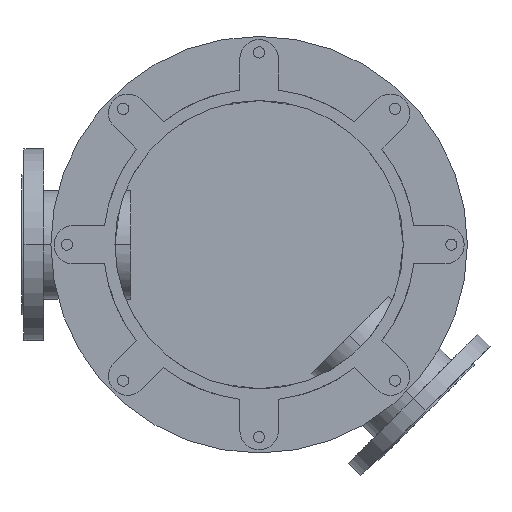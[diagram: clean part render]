
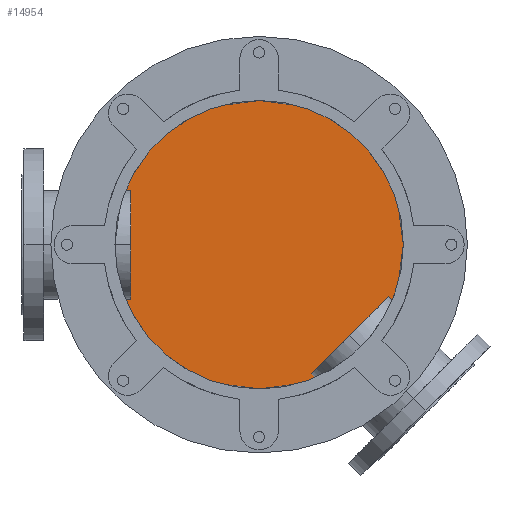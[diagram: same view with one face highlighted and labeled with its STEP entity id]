
A CAD part, front view. The second image highlights one B-rep face of the part: STEP entity #14954.
In plain terms, the highlighted planar face has unit normal (0, -1, 0).
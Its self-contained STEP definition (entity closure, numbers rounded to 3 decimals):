
#3902=CARTESIAN_POINT('',(0.,1172.,0.));
#3903=DIRECTION('',(0.,-1.,0.));
#3904=DIRECTION('',(0.,0.,1.));
#3905=AXIS2_PLACEMENT_3D('',#3902,#3903,#3904);
#4029=CARTESIAN_POINT('',(0.,1172.,0.));
#4030=DIRECTION('',(0.,-1.,0.));
#4031=DIRECTION('',(0.,0.,-1.));
#4032=AXIS2_PLACEMENT_3D('',#4029,#4030,#4031);
#9176=CARTESIAN_POINT('',(0.,1172.,240.));
#9177=CARTESIAN_POINT('',(0.,1172.,-240.));
#9178=VERTEX_POINT('',#9176);
#9179=VERTEX_POINT('',#9177);
#14944=CARTESIAN_POINT('',(0.,1172.,0.));
#14945=DIRECTION('',(0.,1.,0.));
#14946=DIRECTION('',(0.,0.,-1.));
#14947=AXIS2_PLACEMENT_3D('',#14944,#14945,#14946);
#14948=PLANE('',#14947);
#14949=ORIENTED_EDGE('',*,*,#14928,.F.);
#14951=ORIENTED_EDGE('',*,*,#14950,.F.);
#14952=EDGE_LOOP('',(#14949,#14951));
#14953=FACE_OUTER_BOUND('',#14952,.F.);
#14954=ADVANCED_FACE('',(#14953),#14948,.F.);
#3906=CIRCLE('',#3905,240.);
#4033=CIRCLE('',#4032,240.);
#14928=EDGE_CURVE('',#9178,#9179,#3906,.T.);
#14950=EDGE_CURVE('',#9179,#9178,#4033,.T.);
